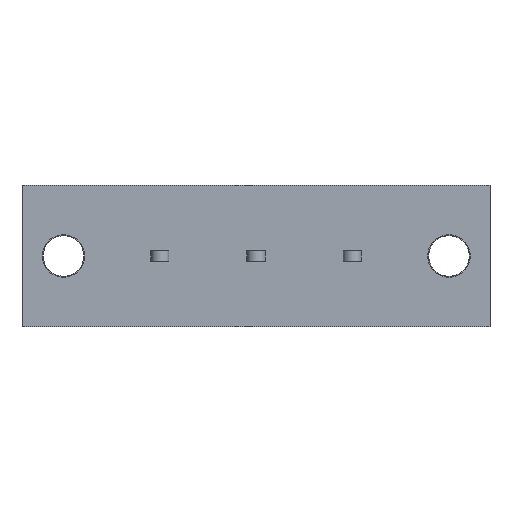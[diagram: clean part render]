
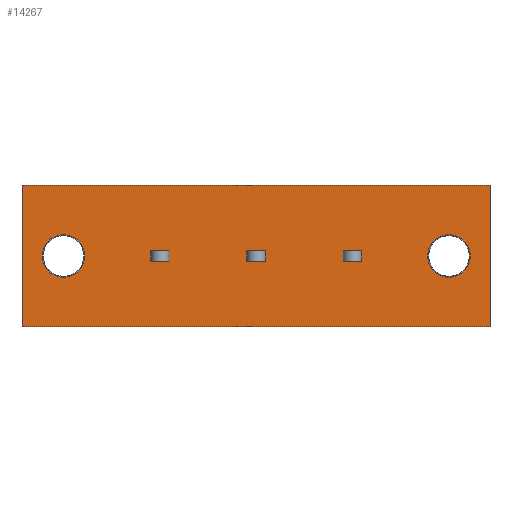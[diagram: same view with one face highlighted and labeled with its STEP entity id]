
A CAD part, front view. The second image highlights one B-rep face of the part: STEP entity #14267.
In plain terms, the highlighted planar face has unit normal (0, -1, 0).
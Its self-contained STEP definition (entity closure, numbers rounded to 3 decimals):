
#658=CIRCLE('',#14718,2.1);
#803=CIRCLE('',#15241,2.1);
#841=VERTEX_POINT('',#18410);
#842=VERTEX_POINT('',#18411);
#845=VERTEX_POINT('',#18419);
#878=VERTEX_POINT('',#18503);
#1040=VERTEX_POINT('',#19021);
#1041=VERTEX_POINT('',#19023);
#1046=VERTEX_POINT('',#19054);
#1364=VERTEX_POINT('',#20031);
#1365=VERTEX_POINT('',#20032);
#1368=VERTEX_POINT('',#20040);
#1380=VERTEX_POINT('',#20079);
#1856=VERTEX_POINT('',#21982);
#1857=VERTEX_POINT('',#21984);
#1861=VERTEX_POINT('',#21994);
#1862=VERTEX_POINT('',#22010);
#1863=VERTEX_POINT('',#22011);
#1864=VERTEX_POINT('',#22013);
#1865=VERTEX_POINT('',#22015);
#2278=VECTOR('',#15478,1.);
#2282=VECTOR('',#15483,1.);
#2317=VECTOR('',#15545,1.);
#2319=VECTOR('',#15548,1.);
#2479=VECTOR('',#15954,1.);
#2820=VECTOR('',#16702,1.);
#2823=VECTOR('',#16708,1.);
#2839=VECTOR('',#16741,1.);
#2842=VECTOR('',#16749,1.);
#3387=VECTOR('',#17624,1.);
#3397=VECTOR('',#17648,1.);
#3398=VECTOR('',#17650,1.);
#3399=VECTOR('',#17651,1.);
#3400=VECTOR('',#17652,1.);
#3401=VECTOR('',#17653,1.);
#3402=VECTOR('',#17654,1.);
#3891=LINE('',#18409,#2278);
#3895=LINE('',#18418,#2282);
#3930=LINE('',#18502,#2317);
#3932=LINE('',#18506,#2319);
#4092=LINE('',#19022,#2479);
#4433=LINE('',#20030,#2820);
#4436=LINE('',#20039,#2823);
#4452=LINE('',#20078,#2839);
#4455=LINE('',#20086,#2842);
#5000=LINE('',#21983,#3387);
#5010=LINE('',#22007,#3397);
#5011=LINE('',#22009,#3398);
#5012=LINE('',#22012,#3399);
#5013=LINE('',#22014,#3400);
#5014=LINE('',#22016,#3401);
#5015=LINE('',#22017,#3402);
#5506=EDGE_CURVE('',#841,#842,#3891,.T.);
#5510=EDGE_CURVE('',#845,#841,#3895,.T.);
#5555=EDGE_CURVE('',#878,#845,#3930,.T.);
#5557=EDGE_CURVE('',#842,#878,#3932,.T.);
#5793=EDGE_CURVE('',#1041,#1040,#4092,.T.);
#5809=EDGE_CURVE('',#1046,#1046,#658,.T.);
#6280=EDGE_CURVE('',#1364,#1365,#4433,.T.);
#6284=EDGE_CURVE('',#1365,#1368,#4436,.T.);
#6308=EDGE_CURVE('',#1368,#1380,#4452,.T.);
#6312=EDGE_CURVE('',#1380,#1364,#4455,.T.);
#7015=EDGE_CURVE('',#1857,#1856,#5000,.T.);
#7020=EDGE_CURVE('',#1861,#1861,#803,.T.);
#7027=EDGE_CURVE('',#1856,#1041,#5010,.T.);
#7028=EDGE_CURVE('',#1862,#1863,#5011,.T.);
#7029=EDGE_CURVE('',#1864,#1862,#5012,.T.);
#7030=EDGE_CURVE('',#1865,#1864,#5013,.T.);
#7031=EDGE_CURVE('',#1863,#1865,#5014,.T.);
#7032=EDGE_CURVE('',#1857,#1040,#5015,.T.);
#10619=ORIENTED_EDGE('',*,*,#5510,.T.);
#10620=ORIENTED_EDGE('',*,*,#5506,.T.);
#10621=ORIENTED_EDGE('',*,*,#5557,.T.);
#10622=ORIENTED_EDGE('',*,*,#5555,.T.);
#10623=ORIENTED_EDGE('',*,*,#5809,.T.);
#10624=ORIENTED_EDGE('',*,*,#6308,.F.);
#10625=ORIENTED_EDGE('',*,*,#6284,.F.);
#10626=ORIENTED_EDGE('',*,*,#6280,.F.);
#10627=ORIENTED_EDGE('',*,*,#6312,.F.);
#10628=ORIENTED_EDGE('',*,*,#7028,.F.);
#10629=ORIENTED_EDGE('',*,*,#7029,.F.);
#10630=ORIENTED_EDGE('',*,*,#7030,.F.);
#10631=ORIENTED_EDGE('',*,*,#7031,.F.);
#10632=ORIENTED_EDGE('',*,*,#7020,.T.);
#10633=ORIENTED_EDGE('',*,*,#7027,.T.);
#10634=ORIENTED_EDGE('',*,*,#5793,.T.);
#10635=ORIENTED_EDGE('',*,*,#7032,.F.);
#10636=ORIENTED_EDGE('',*,*,#7015,.T.);
#12565=EDGE_LOOP('',(#10619,#10620,#10621,#10622));
#12566=EDGE_LOOP('',(#10623));
#12567=EDGE_LOOP('',(#10624,#10625,#10626,#10627));
#12568=EDGE_LOOP('',(#10628,#10629,#10630,#10631));
#12569=EDGE_LOOP('',(#10632));
#12570=EDGE_LOOP('',(#10633,#10634,#10635,#10636));
#13443=FACE_BOUND('',#12565,.T.);
#13444=FACE_BOUND('',#12566,.T.);
#13445=FACE_BOUND('',#12567,.T.);
#13446=FACE_BOUND('',#12568,.T.);
#13447=FACE_BOUND('',#12569,.T.);
#13448=FACE_BOUND('',#12570,.T.);
#14267=ADVANCED_FACE('',(#13443,#13444,#13445,#13446,#13447,#13448),#24101,
 .T.);
#14718=AXIS2_PLACEMENT_3D('',#19053,#15987,#15988);
#15241=AXIS2_PLACEMENT_3D('',#21993,#17632,#17633);
#15248=AXIS2_PLACEMENT_3D('',#22008,#17649,$);
#15478=DIRECTION('',(0.,0.,1.));
#15483=DIRECTION('',(-1.,0.,0.));
#15545=DIRECTION('',(0.,0.,-1.));
#15548=DIRECTION('',(1.,0.,0.));
#15954=DIRECTION('',(0.,0.,1.));
#15987=DIRECTION('',(0.,1.,0.));
#15988=DIRECTION('',(2.1,0.,0.));
#16702=DIRECTION('',(-1.,0.,0.));
#16708=DIRECTION('',(0.,0.,-1.));
#16741=DIRECTION('',(1.,0.,0.));
#16749=DIRECTION('',(0.,0.,1.));
#17624=DIRECTION('',(0.,0.,-1.));
#17632=DIRECTION('',(0.,1.,0.));
#17633=DIRECTION('',(2.1,0.,0.));
#17648=DIRECTION('',(1.,0.,0.));
#17649=DIRECTION('',(0.,-1.,0.));
#17650=DIRECTION('',(1.,0.,0.));
#17651=DIRECTION('',(0.,0.,-1.));
#17652=DIRECTION('',(-1.,0.,0.));
#17653=DIRECTION('',(0.,0.,1.));
#17654=DIRECTION('',(1.,0.,0.));
#18409=CARTESIAN_POINT('',(31.7,0.,-1.75));
#18410=CARTESIAN_POINT('',(31.7,0.,-0.5));
#18411=CARTESIAN_POINT('',(31.7,0.,0.5));
#18418=CARTESIAN_POINT('',(16.3,0.,-0.5));
#18419=CARTESIAN_POINT('',(33.5,0.,-0.5));
#18502=CARTESIAN_POINT('',(33.5,0.,-1.75));
#18503=CARTESIAN_POINT('',(33.5,0.,0.5));
#18506=CARTESIAN_POINT('',(16.3,0.,0.5));
#19021=CARTESIAN_POINT('',(46.2,0.,7.));
#19022=CARTESIAN_POINT('',(46.2,0.,7.));
#19023=CARTESIAN_POINT('',(46.2,0.,-7.));
#19053=CARTESIAN_POINT('',(42.15,0.,0.));
#19054=CARTESIAN_POINT('',(40.05,0.,0.));
#20030=CARTESIAN_POINT('',(21.075,0.,0.5));
#20031=CARTESIAN_POINT('',(24.,0.,0.5));
#20032=CARTESIAN_POINT('',(22.2,0.,0.5));
#20039=CARTESIAN_POINT('',(22.2,0.,-1.75));
#20040=CARTESIAN_POINT('',(22.2,0.,-0.5));
#20078=CARTESIAN_POINT('',(21.075,0.,-0.5));
#20079=CARTESIAN_POINT('',(24.,0.,-0.5));
#20086=CARTESIAN_POINT('',(24.,0.,-1.75));
#21982=CARTESIAN_POINT('',(0.,0.,-7.));
#21983=CARTESIAN_POINT('',(0.,0.,7.));
#21984=CARTESIAN_POINT('',(0.,0.,7.));
#21993=CARTESIAN_POINT('',(4.1,0.,0.));
#21994=CARTESIAN_POINT('',(2.,0.,0.));
#22007=CARTESIAN_POINT('',(0.,0.,-7.));
#22008=CARTESIAN_POINT('',(0.,0.,0.));
#22009=CARTESIAN_POINT('',(11.575,0.,-0.5));
#22010=CARTESIAN_POINT('',(12.7,0.,-0.5));
#22011=CARTESIAN_POINT('',(14.5,0.,-0.5));
#22012=CARTESIAN_POINT('',(12.7,0.,-1.75));
#22013=CARTESIAN_POINT('',(12.7,0.,0.5));
#22014=CARTESIAN_POINT('',(11.575,0.,0.5));
#22015=CARTESIAN_POINT('',(14.5,0.,0.5));
#22016=CARTESIAN_POINT('',(14.5,0.,-1.75));
#22017=CARTESIAN_POINT('',(0.,0.,7.));
#24101=PLANE('',#15248);
